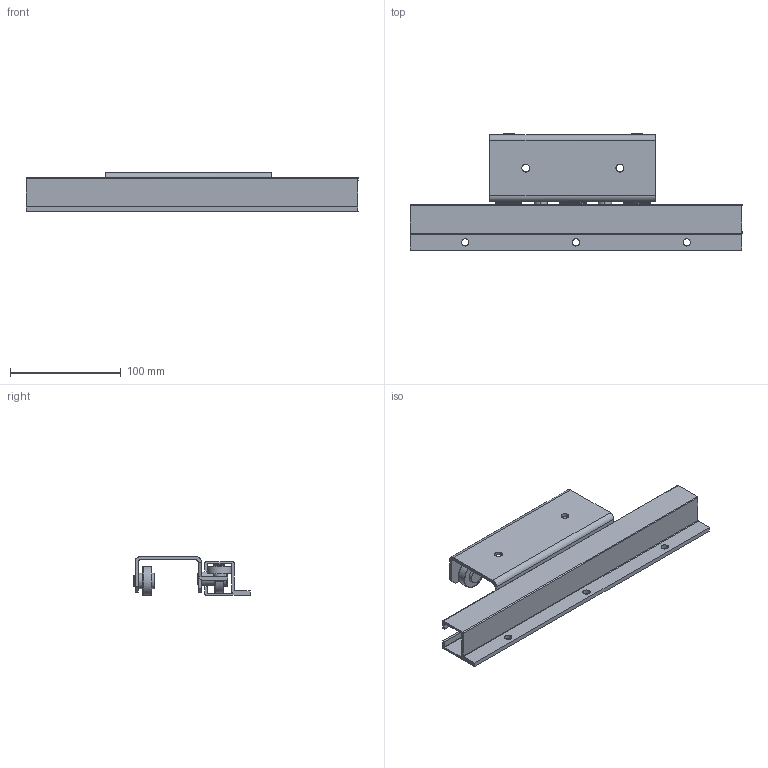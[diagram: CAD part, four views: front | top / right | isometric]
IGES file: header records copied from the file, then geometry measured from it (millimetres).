
Global section: file name: No Iges File Name specified; native system: AutoDesk Inventor R10; preprocessor: AutoDesk Inventor Iges Exporter R10; author: No Author specified; organization: No Organization specified; date: 20110608.140042; units: millimetre
Bounding box: 300 x 105 x 35 mm (x, y, z)
Surface area: 110077.7 mm2 (no closed solid volume)
Topology: 0 solids, 0 shells, 253 faces, 1664 edges, 1664 vertices
Faces by surface type: bspline 253
